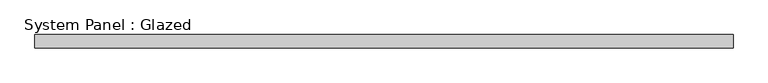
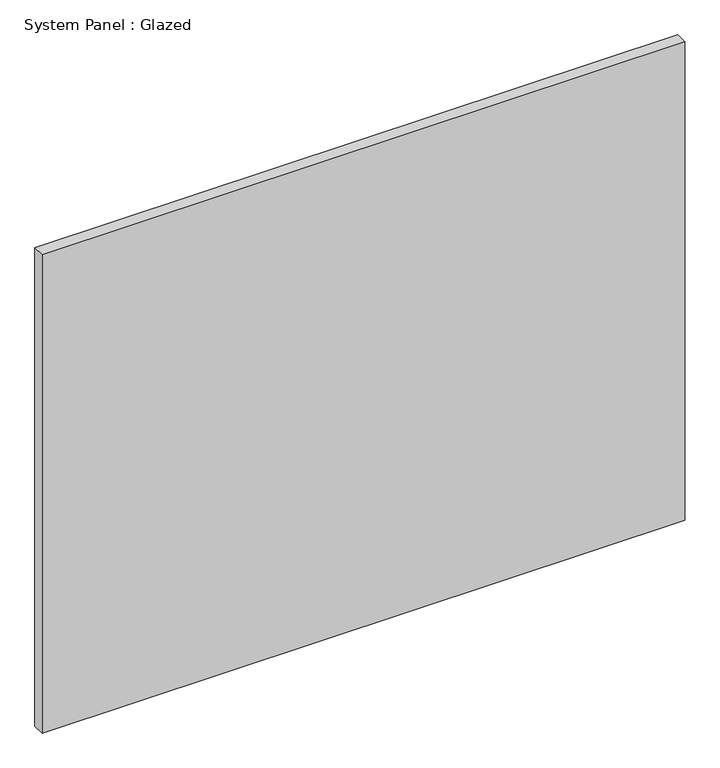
"""IFC4 building model written with IfcOpenShell, lengths in millimetres: plate geometry, System Panel : Glazed."""

from ifc_helpers import new_model, si_unit, origin, origin_with_axes, place, context, project, spatial, polyline, outline, extrude, source, transform, mapped, element, save


def system_panel_glazed_be4283e0(model_context):
    return source(origin(), model_context, "Body", "SweptSolid", [
        extrude(outline(polyline([(651.6601177, -49.5), (-651.6601177, -49.5), (-651.6601177, -24.5), (651.6601177, -24.5), (651.6601177, -49.5)])), origin_with_axes(), (0.0, 0.0, 1.0), 1025.0),
    ])


if __name__ == "__main__":
    model = new_model("IFC4")
    model_context = context("Model", 3, world=origin())
    ifc_project = project(units=[si_unit("LENGTHUNIT", "METRE", prefix="MILLI")], contexts=[model_context])
    site = spatial("IfcSite", under=ifc_project)
    building = spatial("IfcBuilding", under=site)
    placement = place(None, origin())
    system_panel_glazed_shape = system_panel_glazed_be4283e0(model_context)
    element("IfcPlate", 1, ObjectType="System Panel : Glazed", at=placement, inside=building, context=model_context, shape_type="MappedRepresentation", body=[
        mapped(system_panel_glazed_shape, transform((0.0, 0.0, 0.0), x_axis=(1.0, 0.0, 0.0), y_axis=(0.0, 1.0, 0.0), z_axis=(0.0, 0.0, 1.0))),
    ])
    save(model, "model.ifc")
